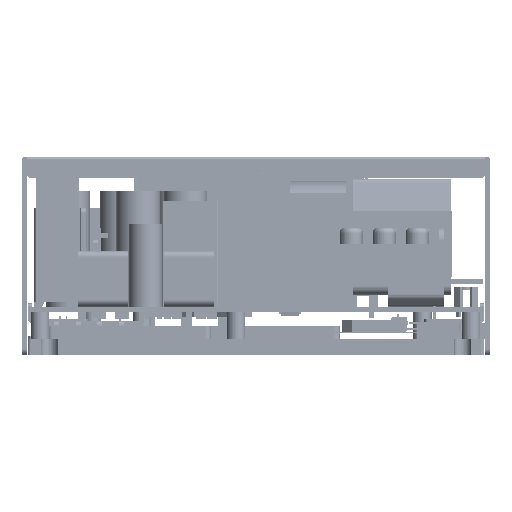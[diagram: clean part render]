
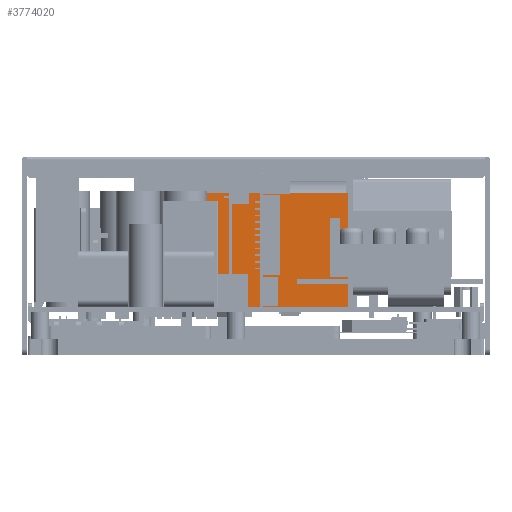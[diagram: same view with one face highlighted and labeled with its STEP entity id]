
A CAD part, front view. The second image highlights one B-rep face of the part: STEP entity #3774020.
In plain terms, the highlighted planar face has unit normal (0, -1, 0) as drawn and (-1, 0, 0) by its records, which use the part's own axes.
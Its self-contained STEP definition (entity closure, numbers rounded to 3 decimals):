
#3773430=CARTESIAN_POINT('',(-5.125,27.5,0.));
#3773440=VERTEX_POINT('',#3773430);
#3773590=CARTESIAN_POINT('',(-5.125,27.5,34.5));
#3773600=VERTEX_POINT('',#3773590);
#3773630=CARTESIAN_POINT('',(-5.125,27.5,34.5));
#3773640=DIRECTION('',(0.,0.,-1.));
#3773650=VECTOR('',#3773640,1.);
#3773660=LINE('',#3773630,#3773650);
#3773670=EDGE_CURVE('',#3773600,#3773440,#3773660,.T.);
#3773720=CARTESIAN_POINT('',(-5.125,-27.5,0.));
#3773730=DIRECTION('',(-1.,0.,0.));
#3773740=DIRECTION('',(0.,1.,0.));
#3773750=AXIS2_PLACEMENT_3D('',#3773720,#3773730,#3773740);
#3773760=PLANE('',#3773750);
#3773770=CARTESIAN_POINT('',(-5.125,27.5,0.));
#3773780=DIRECTION('',(0.,-1.,0.));
#3773790=VECTOR('',#3773780,1.);
#3773800=LINE('',#3773770,#3773790);
#3773810=CARTESIAN_POINT('',(-5.125,-27.5,0.));
#3773820=VERTEX_POINT('',#3773810);
#3773830=EDGE_CURVE('',#3773440,#3773820,#3773800,.T.);
#3773840=ORIENTED_EDGE('',*,*,#3773830,.T.);
#3773850=ORIENTED_EDGE('',*,*,#3773670,.T.);
#3773860=CARTESIAN_POINT('',(-5.125,-27.5,34.5));
#3773870=DIRECTION('',(0.,1.,0.));
#3773880=VECTOR('',#3773870,1.);
#3773890=LINE('',#3773860,#3773880);
#3773900=CARTESIAN_POINT('',(-5.125,-27.5,34.5));
#3773910=VERTEX_POINT('',#3773900);
#3773920=EDGE_CURVE('',#3773910,#3773600,#3773890,.T.);
#3773930=ORIENTED_EDGE('',*,*,#3773920,.T.);
#3773940=CARTESIAN_POINT('',(-5.125,-27.5,34.5));
#3773950=DIRECTION('',(0.,0.,-1.));
#3773960=VECTOR('',#3773950,1.);
#3773970=LINE('',#3773940,#3773960);
#3773980=EDGE_CURVE('',#3773910,#3773820,#3773970,.T.);
#3773990=ORIENTED_EDGE('',*,*,#3773980,.F.);
#3774000=EDGE_LOOP('',(#3773990,#3773930,#3773850,#3773840));
#3774010=FACE_OUTER_BOUND('',#3774000,.T.);
#3774020=ADVANCED_FACE('',(#3774010),#3773760,.T.);
